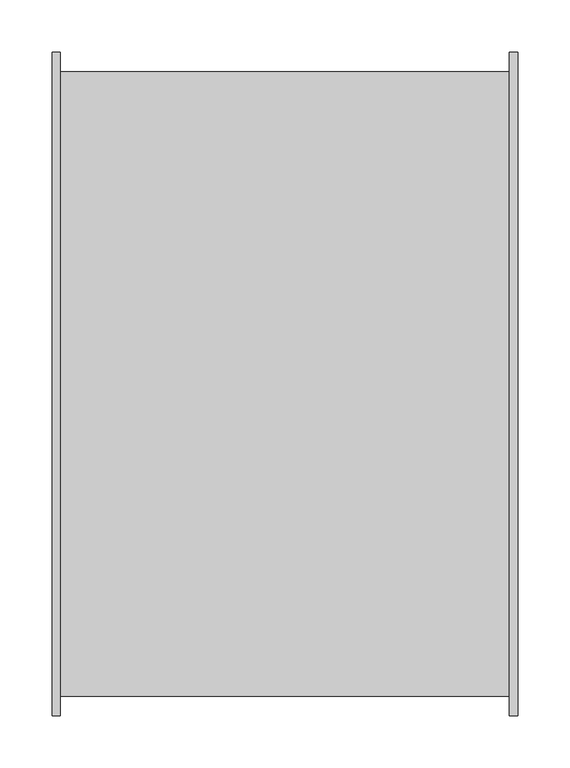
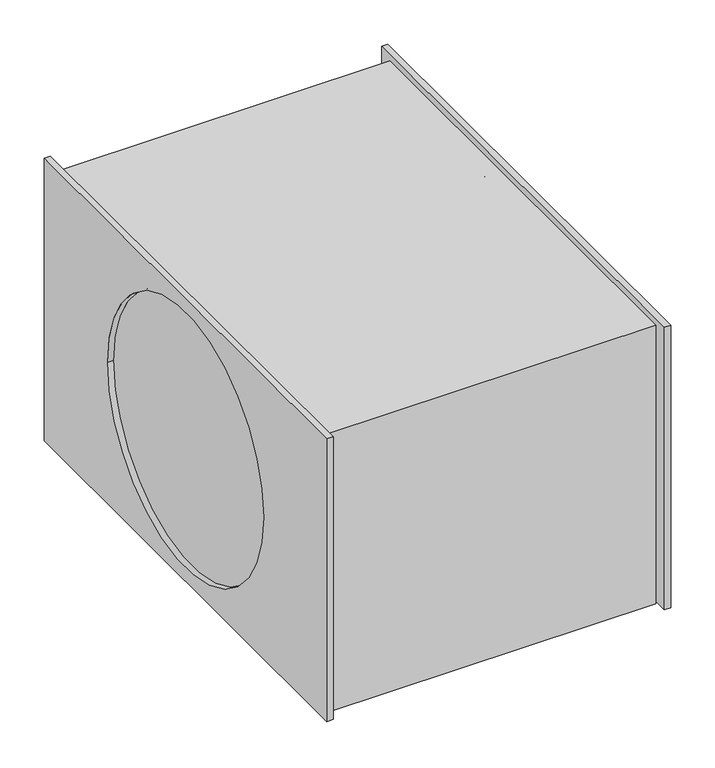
"""IFC4 building model written with IfcOpenShell, lengths in millimetres: unitary equipment geometry, VE-Wentylator-ParaForma-Harmann-JETTEC_REC-Nawiewny : 060/35/5000S."""

import ifcopenshell
import ifcopenshell.guid

model = None  # the IFC model being written
_history = None  # IfcOwnerHistory: only IFC2X3 demands one
_inside = {}  # id of a spatial element -> (the spatial element, [elements in it])
_under = {}  # id of a project, library or spatial element -> (it, [spatial elements below it])
_declared = {}  # id of a project -> (the project, [libraries it declares])
_typed = {}  # id of a type object -> (the type object, [elements of that type])
_made_of = {}  # id of a material, layer set ... -> (it, [elements and type objects made of it])


def new_model(schema):
    """Start an empty IFC model of exactly this schema.

    Asked for "IFC4X3", IfcOpenShell would pick the latest addendum, in which some entities
    have other attributes; the version numbers below select the first issue.
    IFC2X3 requires an IfcOwnerHistory on every rooted entity: one is made here for all.
    """
    global model, _history
    if schema == "IFC4X3":
        model = ifcopenshell.file(schema_version=(4, 3, 0, 0))
    else:
        model = ifcopenshell.file(schema=schema)
    _inside.clear()
    _under.clear()
    _declared.clear()
    _typed.clear()
    _made_of.clear()
    _history = None
    if model.schema == "IFC2X3":
        org = make("IfcOrganization", Name="unknown")
        user = make(
            "IfcPersonAndOrganization",
            ThePerson=make("IfcPerson", FamilyName="unknown"),
            TheOrganization=org,
        )
        app = make(
            "IfcApplication",
            ApplicationDeveloper=org,
            Version="unknown",
            ApplicationFullName="unknown",
            ApplicationIdentifier="unknown",
        )
        _history = make(
            "IfcOwnerHistory",
            OwningUser=user,
            OwningApplication=app,
            ChangeAction="ADDED",
            CreationDate=0,
        )
    return model


def make(cls, **values):
    """One entity of the class cls with the attributes given. An attribute that is None is left unset."""
    return model.create_entity(
        cls, **{name: value for name, value in values.items() if value is not None}
    )


def rooted(cls, **values):
    """An entity with a GlobalId (a new one), such as an element, a storey or a relation."""
    return make(cls, GlobalId=ifcopenshell.guid.new(), OwnerHistory=_history, **values)


def si_unit(unit_type, name, prefix=None):
    """IfcSIUnit, for example si_unit("LENGTHUNIT", "METRE", prefix="MILLI")."""
    return make("IfcSIUnit", UnitType=unit_type, Prefix=prefix, Name=name)


def assignment(units):
    """IfcUnitAssignment: the units of a project."""
    return None if units is None else make("IfcUnitAssignment", Units=units)


def point(xyz):
    """IfcCartesianPoint."""
    return None if xyz is None else make("IfcCartesianPoint", Coordinates=xyz)


def direction(xyz):
    """IfcDirection."""
    return None if xyz is None else make("IfcDirection", DirectionRatios=xyz)


def frame(location, z_axis=None, x_axis=None):
    """IfcAxis2Placement3D, a coordinate frame: its origin and axes. An axis left out is left unset."""
    return make(
        "IfcAxis2Placement3D",
        Location=point(location),
        Axis=direction(z_axis),
        RefDirection=direction(x_axis),
    )


def origin():
    """The frame at (0, 0, 0) with its axes left unset."""
    return frame((0.0, 0.0, 0.0))


def place(relative_to, where):
    """IfcLocalPlacement: puts the frame where relative to a parent placement (None: the world)."""
    return make(
        "IfcLocalPlacement", PlacementRelTo=relative_to, RelativePlacement=where
    )


def context(
    kind, dimensions, precision=None, world=None, true_north=None, identifier=None
):
    """IfcGeometricRepresentationContext, for example the 3D "Model" context."""
    return make(
        "IfcGeometricRepresentationContext",
        ContextIdentifier=identifier,
        ContextType=kind,
        CoordinateSpaceDimension=dimensions,
        Precision=precision,
        WorldCoordinateSystem=world,
        TrueNorth=true_north,
    )


def project(units=None, contexts=None):
    """IfcProject with its units and contexts."""
    return rooted(
        "IfcProject",
        Name="project",
        RepresentationContexts=contexts,
        UnitsInContext=assignment(units),
    )


def spatial(cls, under=None, at=None, **own):
    """A site, building, storey or space (cls), placed at a placement, below another one or the project."""
    s = rooted(cls, ObjectPlacement=at, **own)
    if under is not None:
        _under.setdefault(under.id(), (under, []))[1].append(s)
    return s


def polyline(points):
    """IfcPolyline through the points."""
    return make("IfcPolyline", Points=[point(p) for p in points])


def circle_curve(where, radius):
    """IfcCircle in the frame where."""
    return make("IfcCircle", Position=where, Radius=radius)


def shape(context_of_items, identifier, shape_type, items):
    """IfcShapeRepresentation: the items that make up one representation, for example the "Body"."""
    return make(
        "IfcShapeRepresentation",
        ContextOfItems=context_of_items,
        RepresentationIdentifier=identifier,
        RepresentationType=shape_type,
        Items=items,
    )


def source(mapping_origin, context_of_items, identifier, shape_type, items):
    """IfcRepresentationMap: a shape defined once, which mapped items show again and again."""
    return make(
        "IfcRepresentationMap",
        MappingOrigin=mapping_origin,
        MappedRepresentation=shape(context_of_items, identifier, shape_type, items),
    )


def transform(
    local_origin,
    x_axis=None,
    y_axis=None,
    z_axis=None,
    scale=None,
    scale2=None,
    scale3=None,
    uniform=True,
):
    """IfcCartesianTransformationOperator3D, or its non-uniform kind. x_axis, y_axis, z_axis: its Axis1, 2, 3."""
    if uniform:
        return make(
            "IfcCartesianTransformationOperator3D",
            Axis1=direction(x_axis),
            Axis2=direction(y_axis),
            LocalOrigin=point(local_origin),
            Scale=scale,
            Axis3=direction(z_axis),
        )
    return make(
        "IfcCartesianTransformationOperator3DnonUniform",
        Axis1=direction(x_axis),
        Axis2=direction(y_axis),
        LocalOrigin=point(local_origin),
        Scale=scale,
        Axis3=direction(z_axis),
        Scale2=scale2,
        Scale3=scale3,
    )


def mapped(mapping_source, mapping_target):
    """IfcMappedItem: shows the shape of a source again, moved by a transform."""
    return make(
        "IfcMappedItem", MappingSource=mapping_source, MappingTarget=mapping_target
    )


def made_of(thing, what):
    """Note that an element or type object is made of a material, layer set ...; save() writes the relation."""
    if what is not None:
        _made_of.setdefault(what.id(), (what, []))[1].append(thing)
    return thing


def element(
    cls,
    number,
    at=None,
    inside=None,
    cuts=None,
    type_object=None,
    material=None,
    context=None,
    identifier="Body",
    shape_type=None,
    held_by="IfcProductDefinitionShape",
    body=None,
    shapes=None,
    **own,
):
    """One element of the class cls, such as IfcWall. Its Tag is "e" and its number.

    at: its placement. inside: the storey or other place that contains it. cuts: it is an
    opening in that element (IfcRelVoidsElement). A single representation is given by context,
    identifier, shape_type and body (its items); several are given by shapes. held_by: the class
    of the entity that holds the representations. save() writes the other relations.
    """
    e = rooted(cls, Tag="e%d" % number, ObjectPlacement=at, **own)
    if body is not None:
        shapes = [shape(context, identifier, shape_type, body)]
    if shapes is not None:
        e.Representation = make(held_by, Representations=shapes)
    if inside is not None:
        _inside.setdefault(inside.id(), (inside, []))[1].append(e)
    if cuts is not None:
        rooted(
            "IfcRelVoidsElement", RelatingBuildingElement=cuts, RelatedOpeningElement=e
        )
    if type_object is not None:
        _typed.setdefault(type_object.id(), (type_object, []))[1].append(e)
    return made_of(e, material)


def aggregate(whole, parts):
    """IfcRelAggregates: a whole, such as a stair, and the parts it consists of."""
    return rooted("IfcRelAggregates", RelatingObject=whole, RelatedObjects=parts)


def save(model, path):
    """Write the relations noted so far, then the file.

    IfcRelAggregates (storeys below a building ...), IfcRelContainedInSpatialStructure (elements
    in a storey), IfcRelDefinesByType, IfcRelAssociatesMaterial and IfcRelDeclares: one each for
    every whole, place, type object, material and project.
    """
    for whole, parts in _under.values():
        aggregate(whole, parts)
    for where, things in _inside.values():
        rooted(
            "IfcRelContainedInSpatialStructure",
            RelatedElements=things,
            RelatingStructure=where,
        )
    for kind, things in _typed.values():
        rooted("IfcRelDefinesByType", RelatedObjects=things, RelatingType=kind)
    for what, things in _made_of.values():
        rooted("IfcRelAssociatesMaterial", RelatedObjects=things, RelatingMaterial=what)
    for by, libraries in _declared.values():
        rooted("IfcRelDeclares", RelatingContext=by, RelatedDefinitions=libraries)
    model.write(path)


def plane_surface(at):
    """IfcPlane: the flat surface through the origin of the frame at, square to its z axis."""
    return make("IfcPlane", Position=at)


def revolved_surface(curve, axis_point, axis_direction):
    """IfcSurfaceOfRevolution: the curve turned about the line through axis_point along axis_direction."""
    return make(
        "IfcSurfaceOfRevolution",
        SweptCurve=make("IfcArbitraryOpenProfileDef", ProfileType="CURVE", Curve=curve),
        AxisPosition=make("IfcAxis1Placement", Location=point(axis_point), Axis=direction(axis_direction)),
    )


def advanced_brep(points, edges, surfaces, faces):
    """IfcAdvancedBrep: a solid bounded by faces that lie on surfaces and meet in shared edges.

    An edge is (start, end): straight between two places in points (the first is 0);
    or (start, end, curve); or (start, end, curve, False) where it runs against its curve.
    A face is (place in surfaces, loops), or (place, loops, False) where it looks against
    its surface's normal. A loop lists edges by number (the first is 1), with a minus sign
    where the edge is run from its end to its start. The first loop is the outer one.
    """
    corners = [point(p) for p in points]
    vertices = [make("IfcVertexPoint", VertexGeometry=c) for c in corners]
    made = []
    for start, end, *more in edges:
        made.append(
            make(
                "IfcEdgeCurve",
                EdgeStart=vertices[start],
                EdgeEnd=vertices[end],
                EdgeGeometry=more[0] if more else make("IfcPolyline", Points=[corners[start], corners[end]]),
                SameSense=more[1] if len(more) > 1 else True,
            )
        )
    hull = []
    for where, loops, *sense in faces:
        bounds = []
        for j, loop in enumerate(loops):
            ring = [make("IfcOrientedEdge", EdgeElement=made[abs(k) - 1], Orientation=k > 0) for k in loop]
            bounds.append(
                make(
                    "IfcFaceOuterBound" if j == 0 else "IfcFaceBound",
                    Bound=make("IfcEdgeLoop", EdgeList=ring),
                    Orientation=True,
                )
            )
        hull.append(make("IfcAdvancedFace", Bounds=bounds, FaceSurface=surfaces[where], SameSense=sense[0] if sense else True))
    return make("IfcAdvancedBrep", Outer=make("IfcClosedShell", CfsFaces=hull))


def unitary_equipment_5cf29a0a(model_context):
    return source(origin(), model_context, "Body", "AdvancedBrep", [
        advanced_brep(
        [(216.0, -319.0, -194.8), (216.0, -319.0, 194.8), (216.0, 319.0, 194.8), (216.0, 319.0, -194.8), (216.0, 300.0, -194.8), (216.0, 300.0, 186.1), (216.0, -300.0, 186.1), (216.0, -300.0, -194.8), (224.0, -319.0, -194.8), (224.0, 319.0, -194.8), (224.0, 319.0, 194.8), (224.0, -319.0, 194.8), (224.0, -176.0, 0.0), (224.0, 176.0, 0.0), (216.0, 176.0, 0.0), (216.0, -176.0, 0.0), (-216.0, 300.0, -197.8), (-216.0, -300.0, -197.8), (-216.0, -300.0, -194.8), (-216.0, 300.0, -194.8), (-216.0, -176.0, 0.0), (-216.0, 176.0, 0.0), (216.0, -300.0, -197.8), (216.0, 300.0, -197.8), (-216.0, -300.0, 186.1), (-216.0, 300.0, 186.1), (-224.0, -319.0, -194.8), (-224.0, -319.0, 194.8), (-224.0, 319.0, 194.8), (-224.0, 319.0, -194.8), (-224.0, 176.0, 0.0), (-224.0, -176.0, 0.0), (-216.0, 319.0, -194.8), (-216.0, 319.0, 194.8), (-216.0, -319.0, 194.8), (-216.0, -319.0, -194.8)],
        [
            (0, 1),
            (1, 2),
            (2, 3),
            (3, 4),
            (4, 5),
            (5, 6),
            (6, 7),
            (7, 0),
            (8, 9),
            (9, 10),
            (10, 11),
            (11, 8),
            (12, 13, circle_curve(frame((224.0, 0.0, 0.0), z_axis=(-1.0, 0.0, 0.0), x_axis=(0.0, 1.0, 0.0)), 176.0)),
            (13, 12, circle_curve(frame((224.0, 0.0, 0.0), z_axis=(-1.0, 0.0, 0.0), x_axis=(0.0, 1.0, 0.0)), 176.0)),
            (0, 8),
            (11, 1),
            (10, 2),
            (9, 3),
            (7, 4),
            (14, 13),
            (12, 15),
            (15, 14, circle_curve(frame((216.0, 0.0, 0.0), z_axis=(-1.0, 0.0, 0.0), x_axis=(0.0, 1.0, 0.0)), 176.0)),
            (14, 15, circle_curve(frame((216.0, 0.0, 0.0), z_axis=(-1.0, 0.0, 0.0), x_axis=(0.0, 1.0, 0.0)), 176.0)),
            (16, 17),
            (17, 18),
            (18, 19),
            (19, 16),
            (20, 21, circle_curve(frame((-216.0, 0.0, 0.0), z_axis=(-1.0, 0.0, 0.0), x_axis=(0.0, 1.0, 0.0)), 176.0)),
            (21, 20, circle_curve(frame((-216.0, 0.0, 0.0), z_axis=(-1.0, 0.0, 0.0), x_axis=(0.0, 1.0, 0.0)), 176.0)),
            (22, 23),
            (23, 4),
            (7, 22),
            (17, 22),
            (6, 24),
            (24, 18),
            (5, 25),
            (25, 24),
            (23, 16),
            (19, 25),
            (26, 27),
            (27, 28),
            (28, 29),
            (29, 26),
            (30, 31, circle_curve(frame((-224.0, 0.0, 0.0), z_axis=(1.0, 0.0, 0.0), x_axis=(0.0, 1.0, 0.0)), 176.0)),
            (31, 30, circle_curve(frame((-224.0, 0.0, 0.0), z_axis=(1.0, 0.0, 0.0), x_axis=(0.0, 1.0, 0.0)), 176.0)),
            (32, 33),
            (33, 34),
            (34, 35),
            (35, 18),
            (19, 32),
            (26, 35),
            (34, 27),
            (33, 28),
            (32, 29),
            (30, 21),
            (20, 31),
        ],
        [
            plane_surface(frame((216.0, 0.0, 0.0), z_axis=(-1.0, 0.0, 0.0), x_axis=(0.0, 0.0, 1.0))),
            plane_surface(frame((224.0, 0.0, 0.0), z_axis=(1.0, 0.0, 0.0), x_axis=(0.0, 0.0, 1.0))),
            plane_surface(frame((216.0, -319.0, -194.8), z_axis=(0.0, -1.0, 0.0), x_axis=(1.0, 0.0, 0.0))),
            plane_surface(frame((216.0, -319.0, 194.8), z_axis=(0.0, 0.0, 1.0), x_axis=(1.0, 0.0, 0.0))),
            plane_surface(frame((216.0, 319.0, 194.8), z_axis=(0.0, 1.0, 0.0), x_axis=(1.0, 0.0, 0.0))),
            plane_surface(frame((216.0, 319.0, -194.8), z_axis=(0.0, 0.0, -1.0), x_axis=(1.0, 0.0, 0.0))),
            revolved_surface(polyline([(216.0, 176.0, 0.0), (224.0, 176.0, 0.0)]), (216.0, 0.0, 0.0), (-1.0, 0.0, 0.0)),
            plane_surface(frame((-216.0, 0.0, 0.0), z_axis=(-1.0, 0.0, 0.0), x_axis=(0.0, 0.0, 1.0))),
            plane_surface(frame((216.0, 0.0, 0.0), z_axis=(1.0, 0.0, 0.0), x_axis=(0.0, 0.0, 1.0))),
            plane_surface(frame((-216.0, -300.0, -197.8), z_axis=(0.0, -1.0, 0.0), x_axis=(1.0, 0.0, 0.0))),
            plane_surface(frame((-216.0, -300.0, 186.1), z_axis=(0.0, 0.0, 1.0), x_axis=(1.0, 0.0, 0.0))),
            plane_surface(frame((-216.0, 300.0, 186.1), z_axis=(0.0, 1.0, 0.0), x_axis=(1.0, 0.0, 0.0))),
            plane_surface(frame((-216.0, 300.0, -197.8), z_axis=(0.0, 0.0, -1.0), x_axis=(1.0, 0.0, 0.0))),
            plane_surface(frame((-224.0, 0.0, 0.0), z_axis=(-1.0, 0.0, 0.0), x_axis=(0.0, 0.0, 1.0))),
            plane_surface(frame((-216.0, 0.0, 0.0), z_axis=(1.0, 0.0, 0.0), x_axis=(0.0, 0.0, 1.0))),
            plane_surface(frame((-224.0, -319.0, -194.8), z_axis=(0.0, -1.0, 0.0), x_axis=(1.0, 0.0, 0.0))),
            plane_surface(frame((-224.0, -319.0, 194.8), z_axis=(0.0, 0.0, 1.0), x_axis=(1.0, 0.0, 0.0))),
            plane_surface(frame((-224.0, 319.0, 194.8), z_axis=(0.0, 1.0, 0.0), x_axis=(1.0, 0.0, 0.0))),
            plane_surface(frame((-224.0, 319.0, -194.8), z_axis=(0.0, 0.0, -1.0), x_axis=(1.0, 0.0, 0.0))),
            revolved_surface(polyline([(-224.0, 176.0, 0.0), (-216.0, 176.0, 0.0)]), (-224.0, 0.0, 0.0), (-1.0, 0.0, 0.0)),
        ],
        [
            (0, [[1, 2, 3, 4, 5, 6, 7, 8]]),
            (1, [[9, 10, 11, 12], [13, 14]]),
            (2, [[-1, 15, -12, 16]]),
            (3, [[-2, -16, -11, 17]]),
            (4, [[-3, -17, -10, 18]]),
            (5, [[-9, -15, -8, 19, -4, -18]]),
            (6, [[20, -13, 21, 22]]),
            (6, [[-20, 23, -21, -14]]),
            (7, [[24, 25, 26, 27]]),
            (7, [[28, 29]]),
            (8, [[-22, -23]]),
            (8, [[30, 31, -19, 32]]),
            (9, [[33, -32, -7, 34, 35, -25]]),
            (10, [[-34, -6, 36, 37]]),
            (11, [[-36, -5, -31, 38, -27, 39]]),
            (12, [[-24, -38, -30, -33]]),
            (13, [[40, 41, 42, 43], [44, 45]]),
            (14, [[46, 47, 48, 49, -35, -37, -39, 50]]),
            (15, [[-40, 51, -48, 52]]),
            (16, [[-41, -52, -47, 53]]),
            (17, [[-42, -53, -46, 54]]),
            (18, [[-43, -54, -50, -26, -49, -51]]),
            (19, [[55, -28, 56, -44]]),
            (19, [[-55, -45, -56, -29]]),
        ],
    ),
    ])


if __name__ == "__main__":
    model = new_model("IFC4")
    model_context = context("Model", 3, world=origin())
    ifc_project = project(units=[si_unit("LENGTHUNIT", "METRE", prefix="MILLI")], contexts=[model_context])
    site = spatial("IfcSite", under=ifc_project)
    building = spatial("IfcBuilding", under=site)
    placement = place(None, origin())
    unitary_equipment_shape = unitary_equipment_5cf29a0a(model_context)
    element("IfcUnitaryEquipment", 1, ObjectType="VE-Wentylator-ParaForma-Harmann-JETTEC_REC-Nawiewny : 060/35/5000S", at=placement, inside=building, context=model_context, shape_type="MappedRepresentation", body=[
        mapped(unitary_equipment_shape, transform((0.0, 0.0, 0.0), x_axis=(1.0, 0.0, 0.0), y_axis=(0.0, 1.0, 0.0), z_axis=(0.0, 0.0, 1.0))),
    ])
    save(model, "model.ifc")
